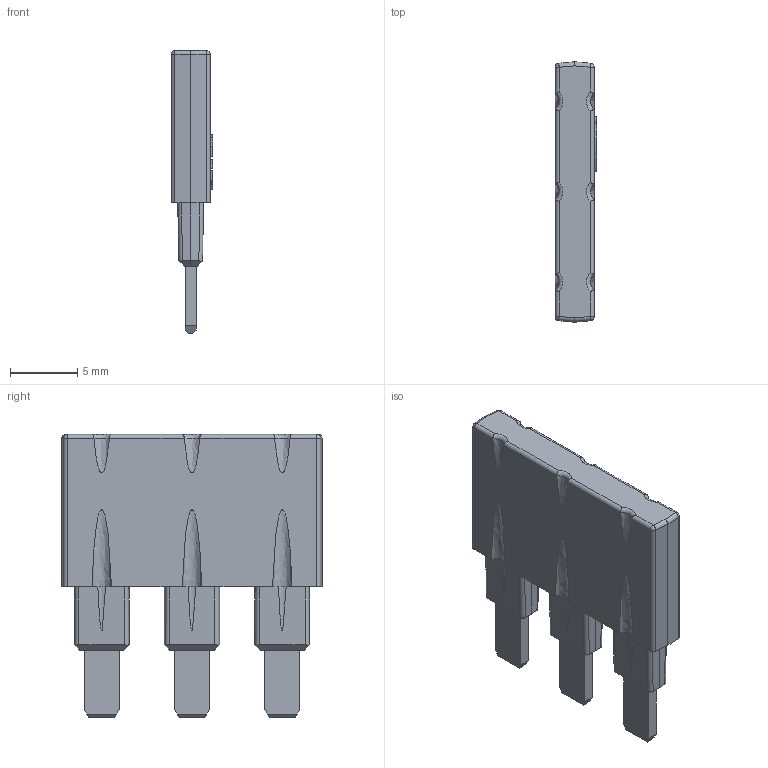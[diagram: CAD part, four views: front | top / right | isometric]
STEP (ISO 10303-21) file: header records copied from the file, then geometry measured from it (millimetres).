
FILE_DESCRIPTION(/* description */ (''),/* implementation_level */ '2;1');
FILE_NAME(/* name */ '100649059ugm000_b.stp',/* time_stamp */ '2017-06-19T11:42:49+02:00',/* author */ (''),/* organization */ (''),/* preprocessor_version */ 'ST-DEVELOPER v16',/* originating_system */ 'SIEMENS PLM Software NX 10.0',/* authorisation */ '');
FILE_SCHEMA (('AUTOMOTIVE_DESIGN { 1 0 10303 214 3 1 1 1 }'));
Length unit declared in the file: millimetre
Products named in the file (1): 100649059ugm000_b
Bounding box: 3.1 x 19.3 x 21 mm (x, y, z)
Volume: 747.8 mm3; surface area: 851.4 mm2
Topology: 1 solids, 1 shells, 234 faces, 614 edges, 397 vertices
Faces by surface type: plane 166, cylinder 44, extrusion 14, bspline 6, sphere 4
Full cylindrical faces by diameter (mm): 0.44 x1, 0.52 x1
Entity records: 9165 total; most frequent: CARTESIAN_POINT 2521, ORIENTED_EDGE 1216, DIRECTION 1121, EDGE_CURVE 608, VECTOR 471, LINE 457, VERTEX_POINT 396, AXIS2_PLACEMENT_3D 325
